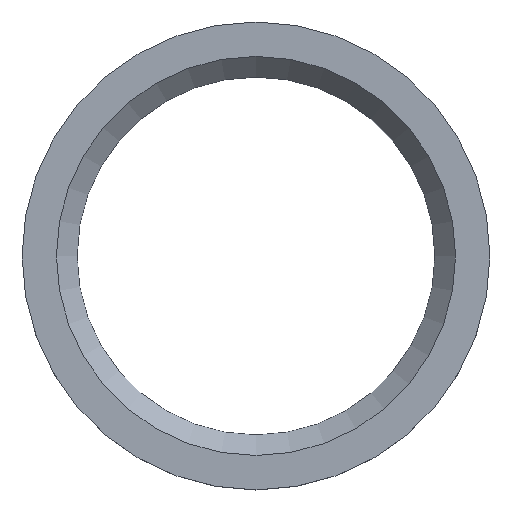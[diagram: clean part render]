
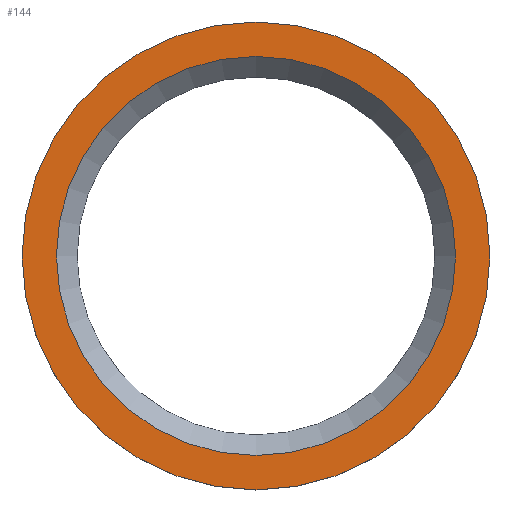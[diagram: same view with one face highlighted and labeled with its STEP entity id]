
A CAD part, top view. The second image highlights one B-rep face of the part: STEP entity #144.
In plain terms, the highlighted planar face has unit normal (0, 0, 1).
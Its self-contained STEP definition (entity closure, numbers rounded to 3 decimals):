
#24 = VERTEX_POINT('',#25);
#25 = CARTESIAN_POINT('',(34.,0.,8.));
#32 = CYLINDRICAL_SURFACE('',#33,34.);
#33 = AXIS2_PLACEMENT_3D('',#34,#35,#36);
#34 = CARTESIAN_POINT('',(0.,0.,0.));
#35 = DIRECTION('',(-0.,-0.,-1.));
#36 = DIRECTION('',(1.,0.,0.));
#51 = EDGE_CURVE('',#24,#24,#52,.T.);
#52 = SURFACE_CURVE('',#53,(#58,#65),.PCURVE_S1.);
#53 = CIRCLE('',#54,34.);
#54 = AXIS2_PLACEMENT_3D('',#55,#56,#57);
#55 = CARTESIAN_POINT('',(0.,0.,8.));
#56 = DIRECTION('',(0.,0.,1.));
#57 = DIRECTION('',(1.,0.,0.));
#58 = PCURVE('',#32,#59);
#59 = DEFINITIONAL_REPRESENTATION('',(#60),#64);
#60 = LINE('',#61,#62);
#61 = CARTESIAN_POINT('',(-0.,-8.));
#62 = VECTOR('',#63,1.);
#63 = DIRECTION('',(-1.,0.));
#64 = ( GEOMETRIC_REPRESENTATION_CONTEXT(2) 
PARAMETRIC_REPRESENTATION_CONTEXT() REPRESENTATION_CONTEXT('2D SPACE',''
  ) );
#65 = PCURVE('',#66,#71);
#66 = PLANE('',#67);
#67 = AXIS2_PLACEMENT_3D('',#68,#69,#70);
#68 = CARTESIAN_POINT('',(0.,0.,8.));
#69 = DIRECTION('',(0.,0.,1.));
#70 = DIRECTION('',(1.,0.,-0.));
#71 = DEFINITIONAL_REPRESENTATION('',(#72),#76);
#72 = CIRCLE('',#73,34.);
#73 = AXIS2_PLACEMENT_2D('',#74,#75);
#74 = CARTESIAN_POINT('',(0.,0.));
#75 = DIRECTION('',(1.,0.));
#76 = ( GEOMETRIC_REPRESENTATION_CONTEXT(2) 
PARAMETRIC_REPRESENTATION_CONTEXT() REPRESENTATION_CONTEXT('2D SPACE',''
  ) );
#144 = ADVANCED_FACE('',(#145,#148),#66,.T.);
#145 = FACE_BOUND('',#146,.T.);
#146 = EDGE_LOOP('',(#147));
#147 = ORIENTED_EDGE('',*,*,#51,.T.);
#148 = FACE_BOUND('',#149,.T.);
#149 = EDGE_LOOP('',(#150));
#150 = ORIENTED_EDGE('',*,*,#151,.F.);
#151 = EDGE_CURVE('',#152,#152,#154,.T.);
#152 = VERTEX_POINT('',#153);
#153 = CARTESIAN_POINT('',(29.,0.,8.));
#154 = SURFACE_CURVE('',#155,(#160,#167),.PCURVE_S1.);
#155 = CIRCLE('',#156,29.);
#156 = AXIS2_PLACEMENT_3D('',#157,#158,#159);
#157 = CARTESIAN_POINT('',(0.,0.,8.));
#158 = DIRECTION('',(0.,0.,1.));
#159 = DIRECTION('',(1.,0.,-0.));
#160 = PCURVE('',#66,#161);
#161 = DEFINITIONAL_REPRESENTATION('',(#162),#166);
#162 = CIRCLE('',#163,29.);
#163 = AXIS2_PLACEMENT_2D('',#164,#165);
#164 = CARTESIAN_POINT('',(0.,0.));
#165 = DIRECTION('',(1.,0.));
#166 = ( GEOMETRIC_REPRESENTATION_CONTEXT(2) 
PARAMETRIC_REPRESENTATION_CONTEXT() REPRESENTATION_CONTEXT('2D SPACE',''
  ) );
#167 = PCURVE('',#168,#173);
#168 = CONICAL_SURFACE('',#169,26.,0.785);
#169 = AXIS2_PLACEMENT_3D('',#170,#171,#172);
#170 = CARTESIAN_POINT('',(0.,0.,5.));
#171 = DIRECTION('',(0.,0.,1.));
#172 = DIRECTION('',(1.,0.,-0.));
#173 = DEFINITIONAL_REPRESENTATION('',(#174),#178);
#174 = LINE('',#175,#176);
#175 = CARTESIAN_POINT('',(0.,3.));
#176 = VECTOR('',#177,1.);
#177 = DIRECTION('',(1.,0.));
#178 = ( GEOMETRIC_REPRESENTATION_CONTEXT(2) 
PARAMETRIC_REPRESENTATION_CONTEXT() REPRESENTATION_CONTEXT('2D SPACE',''
  ) );
